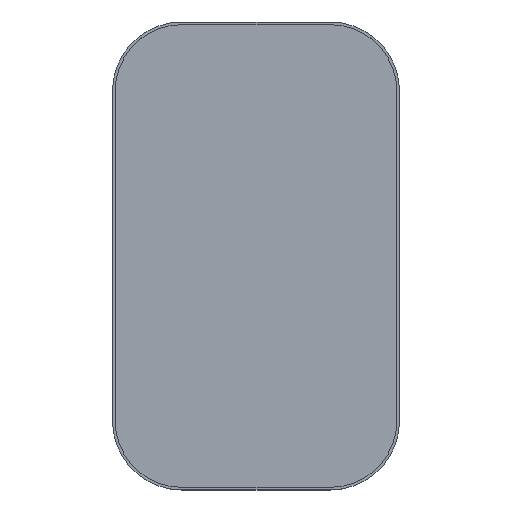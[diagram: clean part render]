
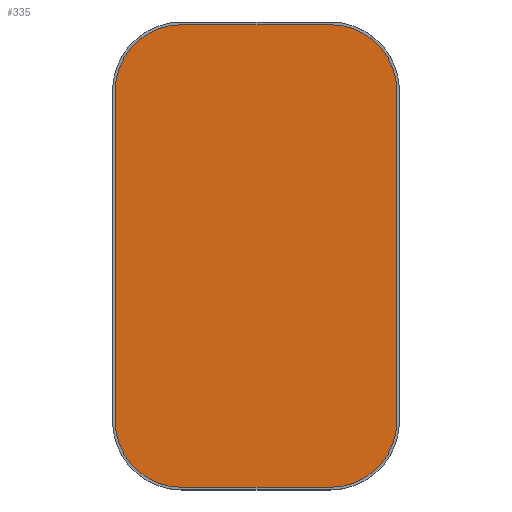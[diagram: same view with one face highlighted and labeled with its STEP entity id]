
A CAD part, top view. The second image highlights one B-rep face of the part: STEP entity #335.
In plain terms, the highlighted planar face has unit normal (0, 0, 1).
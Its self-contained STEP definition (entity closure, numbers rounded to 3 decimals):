
#224 = ORIENTED_EDGE ( 'NONE', *, *, #1437, .F. ) ;
#307 = DIRECTION ( 'NONE',  ( -1., 0., 0. ) ) ;
#335 = ADVANCED_FACE ( 'NONE', ( #3359 ), #1114, .F. ) ;
#373 = DIRECTION ( 'NONE',  ( -1., 0., 0. ) ) ;
#374 = AXIS2_PLACEMENT_3D ( 'NONE', #2161, #2805, #373 ) ;
#403 = EDGE_CURVE ( 'NONE', #1172, #2578, #1564, .T. ) ;
#720 = ORIENTED_EDGE ( 'NONE', *, *, #403, .T. ) ;
#768 = AXIS2_PLACEMENT_3D ( 'NONE', #3798, #2382, #4530 ) ;
#817 = ORIENTED_EDGE ( 'NONE', *, *, #1674, .F. ) ;
#860 = VERTEX_POINT ( 'NONE', #2377 ) ;
#1102 = CARTESIAN_POINT ( 'NONE',  ( 66.25, -77.5, 1.25 ) ) ;
#1114 = PLANE ( 'NONE',  #2942 ) ;
#1133 = AXIS2_PLACEMENT_3D ( 'NONE', #3187, #4660, #307 ) ;
#1160 = DIRECTION ( 'NONE',  ( 0., 0., -1. ) ) ;
#1172 = VERTEX_POINT ( 'NONE', #1102 ) ;
#1217 = VECTOR ( 'NONE', #1909, 1000. ) ;
#1219 = EDGE_CURVE ( 'NONE', #860, #4698, #4431, .T. ) ;
#1250 = VERTEX_POINT ( 'NONE', #3088 ) ;
#1412 = VECTOR ( 'NONE', #3090, 1000. ) ;
#1437 = EDGE_CURVE ( 'NONE', #2890, #4698, #4573, .T. ) ;
#1564 = LINE ( 'NONE', #3003, #1217 ) ;
#1565 = DIRECTION ( 'NONE',  ( 1., 0., 0. ) ) ;
#1621 = EDGE_CURVE ( 'NONE', #1250, #3206, #1888, .T. ) ;
#1674 = EDGE_CURVE ( 'NONE', #1172, #3206, #4498, .T. ) ;
#1860 = EDGE_CURVE ( 'NONE', #860, #2578, #2639, .T. ) ;
#1888 = LINE ( 'NONE', #3338, #2788 ) ;
#1909 = DIRECTION ( 'NONE',  ( 0., 1., 0. ) ) ;
#1922 = EDGE_LOOP ( 'NONE', ( #2777, #817, #720, #3403, #4467, #224, #3066, #2432 ) ) ;
#2161 = CARTESIAN_POINT ( 'NONE',  ( 35., 77.5, 1.25 ) ) ;
#2211 = CARTESIAN_POINT ( 'NONE',  ( 0., 0., 1.25 ) ) ;
#2377 = CARTESIAN_POINT ( 'NONE',  ( 35., 108.75, 1.25 ) ) ;
#2382 = DIRECTION ( 'NONE',  ( 0., 0., -1. ) ) ;
#2388 = CARTESIAN_POINT ( 'NONE',  ( -35., -77.5, 1.25 ) ) ;
#2392 = EDGE_CURVE ( 'NONE', #2890, #2986, #4037, .T. ) ;
#2432 = ORIENTED_EDGE ( 'NONE', *, *, #2949, .F. ) ;
#2578 = VERTEX_POINT ( 'NONE', #3188 ) ;
#2585 = CARTESIAN_POINT ( 'NONE',  ( 0., 108.75, 1.25 ) ) ;
#2639 = CIRCLE ( 'NONE', #374, 31.25 ) ;
#2777 = ORIENTED_EDGE ( 'NONE', *, *, #1621, .T. ) ;
#2788 = VECTOR ( 'NONE', #1565, 1000. ) ;
#2805 = DIRECTION ( 'NONE',  ( 0., 0., -1. ) ) ;
#2890 = VERTEX_POINT ( 'NONE', #3109 ) ;
#2930 = DIRECTION ( 'NONE',  ( -1., 0., 0. ) ) ;
#2942 = AXIS2_PLACEMENT_3D ( 'NONE', #2211, #1160, #2930 ) ;
#2949 = EDGE_CURVE ( 'NONE', #1250, #2986, #3837, .T. ) ;
#2986 = VERTEX_POINT ( 'NONE', #3150 ) ;
#3003 = CARTESIAN_POINT ( 'NONE',  ( 66.25, 0., 1.25 ) ) ;
#3064 = CARTESIAN_POINT ( 'NONE',  ( -66.25, 0., 1.25 ) ) ;
#3066 = ORIENTED_EDGE ( 'NONE', *, *, #2392, .T. ) ;
#3076 = CARTESIAN_POINT ( 'NONE',  ( 35., -108.75, 1.25 ) ) ;
#3088 = CARTESIAN_POINT ( 'NONE',  ( -35., -108.75, 1.25 ) ) ;
#3090 = DIRECTION ( 'NONE',  ( 0., -1., 0. ) ) ;
#3109 = CARTESIAN_POINT ( 'NONE',  ( -66.25, 77.5, 1.25 ) ) ;
#3150 = CARTESIAN_POINT ( 'NONE',  ( -66.25, -77.5, 1.25 ) ) ;
#3187 = CARTESIAN_POINT ( 'NONE',  ( -35., 77.5, 1.25 ) ) ;
#3188 = CARTESIAN_POINT ( 'NONE',  ( 66.25, 77.5, 1.25 ) ) ;
#3206 = VERTEX_POINT ( 'NONE', #3076 ) ;
#3338 = CARTESIAN_POINT ( 'NONE',  ( 0., -108.75, 1.25 ) ) ;
#3359 = FACE_OUTER_BOUND ( 'NONE', #1922, .T. ) ;
#3403 = ORIENTED_EDGE ( 'NONE', *, *, #1860, .F. ) ;
#3627 = VECTOR ( 'NONE', #4053, 1000. ) ;
#3798 = CARTESIAN_POINT ( 'NONE',  ( 35., -77.5, 1.25 ) ) ;
#3837 = CIRCLE ( 'NONE', #4471, 31.25 ) ;
#3869 = DIRECTION ( 'NONE',  ( 0., 0., -1. ) ) ;
#4037 = LINE ( 'NONE', #3064, #1412 ) ;
#4053 = DIRECTION ( 'NONE',  ( -1., 0., 0. ) ) ;
#4312 = DIRECTION ( 'NONE',  ( -1., 0., 0. ) ) ;
#4431 = LINE ( 'NONE', #2585, #3627 ) ;
#4467 = ORIENTED_EDGE ( 'NONE', *, *, #1219, .T. ) ;
#4471 = AXIS2_PLACEMENT_3D ( 'NONE', #2388, #3869, #4312 ) ;
#4498 = CIRCLE ( 'NONE', #768, 31.25 ) ;
#4530 = DIRECTION ( 'NONE',  ( -1., 0., 0. ) ) ;
#4573 = CIRCLE ( 'NONE', #1133, 31.25 ) ;
#4637 = CARTESIAN_POINT ( 'NONE',  ( -35., 108.75, 1.25 ) ) ;
#4660 = DIRECTION ( 'NONE',  ( 0., 0., -1. ) ) ;
#4698 = VERTEX_POINT ( 'NONE', #4637 ) ;
